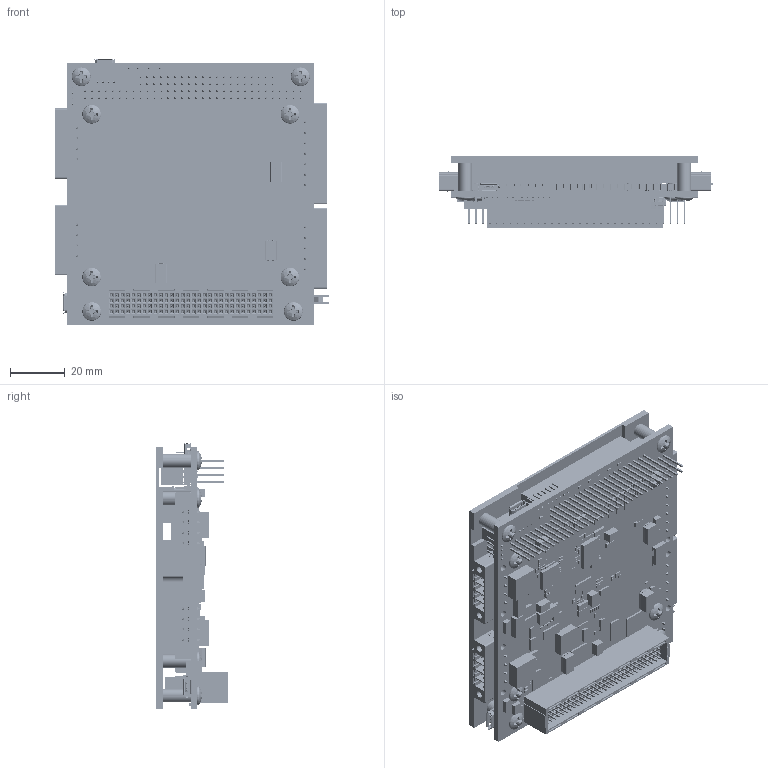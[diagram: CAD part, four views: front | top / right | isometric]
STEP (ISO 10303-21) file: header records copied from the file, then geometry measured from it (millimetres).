
FILE_DESCRIPTION((''),'2;1');
FILE_NAME('JMM_HP_HEAT_SPREADER_ASM','2016-02-23T',('user'),(''),'PRO/ENGINEER BY PARAMETRIC TECHNOLOGY CORPORATION, 2012130','PRO/ENGINEER BY PARAMETRIC TECHNOLOGY CORPORATION, 2012130','');
FILE_SCHEMA(('CONFIG_CONTROL_DESIGN'));
Products named in the file (73): JMM_HP_HEATSPREADER; TGF81_P2; 91735A145_SCREW; BOARD; C100_C165_E_CASE; IND_CM2021Y330R-10_38001; 10118194C; 1827884; 1206_PIN_SHORTED_7000; 2512_PIN_SHORTED_7000; 264-17302_C_3D-STEP; CNT_PC104_4X30_D33_P120_111760_ASM; 8-POWERVDFN_10922; IHLP5050FD-01_10-33UH_; CAP0805_9500; 1827897; 1827910; PG-TDSON-9_10500; CAP1210_27000; TSSOP65P640X120-20_11999; LED_0603_8001; POWERDI-123_10000; SOD323-H1_2_P2_11001; FILLET5; CUT-EXTRUDE4; USER_LIBRARY-AVX_D_CASE_ASM; C53_C65_C78_C199_D_CASE_ASM; CAP_TANTD_43000; CAP_TANTD_31001; SMB_24399; CAP0603_10000; RES2512_7000; MANIFOLD_SOLID_BREP_6162; MANIFOLD_SOLID_BREP_6163; MSOP_3X4_16-EP_11001_ASM; TSSOP10X4-38-EP_11999; U8_D-PAK_TO-252AA_; PG-TO252-3-11_25001_ASM; 962-6020X-12_C_3D_ASM; QFN_RVQ_80P10X10X440-42_43000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
Assembly tree (500 placements, depth 5):
  JMM_HP_HEAT_SPREADER_ASM
    JMM_HP_HEATSPREADER
    TGF81_P2  x5
    91735A145_SCREW  x8
    7110810-A_J-MM-5000_23DEC15_3D_ASM
      BOARD
      C100_C165_E_CASE  x2
      IND_CM2021Y330R-10_38001  x2
      10118194C  x2
      1827884  x2
      1206_PIN_SHORTED_7000  x3
      2512_PIN_SHORTED_7000  x6
      CNT_PC104_4X30_D33_P120_111760_ASM
        264-17302_C_3D-STEP
      8-POWERVDFN_10922  x4
      IHLP5050FD-01_10-33UH_  x3
      CAP0805_9500  x10
      1827897
      1827910
      PG-TDSON-9_10500  x10
      CAP1210_27000  x13
      TSSOP65P640X120-20_11999
      LED_0603_8001  x5
      POWERDI-123_10000  x4
      SOD323-H1_2_P2_11001  x2
      C53_C65_C78_C199_D_CASE_ASM  x4
        USER_LIBRARY-AVX_D_CASE_ASM
          FILLET5
          CUT-EXTRUDE4
      CAP_TANTD_43000  x4
      CAP_TANTD_31001
      SMB_24399  x3
      CAP0603_10000  x35
      RES2512_7000  x11
      MSOP_3X4_16-EP_11001_ASM
        MANIFOLD_SOLID_BREP_6162
        MANIFOLD_SOLID_BREP_6163
      TSSOP10X4-38-EP_11999
      PG-TO252-3-11_25001_ASM
        U8_D-PAK_TO-252AA_
      962-6020X-12_C_3D_ASM
      QFN_RVQ_80P10X10X440-42_43000
      SSOP_4X10_H1_75_P28_17501
      PC104_32X2_PRESS-FIT_110490_ASM
        J1
      CAP0402_1270  x2
      CAP0402_5499  x103
      SSOP65P780X200-28_17501
      JP_1X2
      JP5_1X6
      SOP_4X5_H1_7_P8_EP_17501
      JP_1X4  x2
      FB1206_13000  x3
      IND_IHLP-2525CZ-01_29972  x2
      SOT23_GDS_11999  x4
      SOT23-6-57M_14501  x2
      TSSOP65P640X120-14_11999
      RES1206_6500  x2
      DFN4X3-14_8001
      MSOP3X4-16_11001
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Bounding box: 100.26 x 26.26 x 97.42 mm (x, y, z)
Volume: 79910.9 mm3; surface area: 95328.3 mm2
Topology: 460 solids, 538 shells, 18418 faces, 46124 edges, 29293 vertices
Faces by surface type: plane 14748, cylinder 2966, extrusion 372, cone 136, sphere 112, bspline 44, torus 40
Entity records: 415967 total; most frequent: CARTESIAN_POINT 91316, ORIENTED_EDGE 67518, DIRECTION 62848, EDGE_CURVE 33779, VECTOR 29768, LINE 29563, VERTEX_POINT 21219, AXIS2_PLACEMENT_3D 16540
